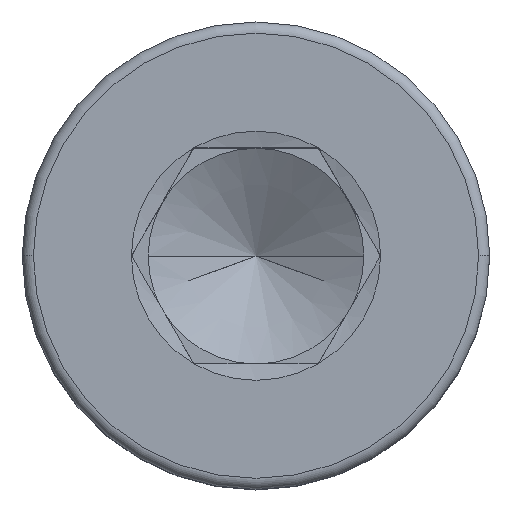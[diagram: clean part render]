
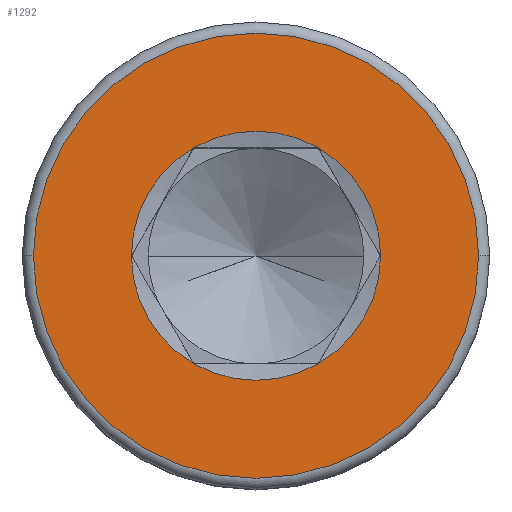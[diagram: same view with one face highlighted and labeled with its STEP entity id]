
A CAD part, top view. The second image highlights one B-rep face of the part: STEP entity #1292.
In plain terms, the highlighted planar face has unit normal (0, 0, 1).
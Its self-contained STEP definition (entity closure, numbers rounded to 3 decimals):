
#3 = DIRECTION ( 'NONE',  ( 0., 0., 1. ) ) ;
#7 = VERTEX_POINT ( 'NONE', #1404 ) ;
#39 = CARTESIAN_POINT ( 'NONE',  ( 0., 0., 8. ) ) ;
#58 = CIRCLE ( 'NONE', #808, 3.464 ) ;
#59 = VERTEX_POINT ( 'NONE', #68 ) ;
#68 = CARTESIAN_POINT ( 'NONE',  ( -6.19, 0., 8. ) ) ;
#82 = EDGE_CURVE ( 'NONE', #838, #1508, #1770, .T. ) ;
#103 = FACE_BOUND ( 'NONE', #1037, .T. ) ;
#121 = DIRECTION ( 'NONE',  ( 1., 0., 0. ) ) ;
#126 = EDGE_CURVE ( 'NONE', #1709, #838, #1119, .T. ) ;
#137 = CARTESIAN_POINT ( 'NONE',  ( -3.464, 0., 8. ) ) ;
#152 = CARTESIAN_POINT ( 'NONE',  ( -1.732, -3., 8. ) ) ;
#178 = ORIENTED_EDGE ( 'NONE', *, *, #82, .F. ) ;
#196 = CIRCLE ( 'NONE', #1217, 3.464 ) ;
#265 = CARTESIAN_POINT ( 'NONE',  ( 0., 0., 8. ) ) ;
#282 = DIRECTION ( 'NONE',  ( 0., 0., 1. ) ) ;
#311 = DIRECTION ( 'NONE',  ( 1., 0., 0. ) ) ;
#369 = CARTESIAN_POINT ( 'NONE',  ( -1.732, 3., 8. ) ) ;
#377 = DIRECTION ( 'NONE',  ( 0., 0., 1. ) ) ;
#379 = ORIENTED_EDGE ( 'NONE', *, *, #869, .F. ) ;
#397 = ORIENTED_EDGE ( 'NONE', *, *, #454, .T. ) ;
#402 = EDGE_CURVE ( 'NONE', #1508, #676, #196, .T. ) ;
#413 = AXIS2_PLACEMENT_3D ( 'NONE', #1083, #377, #1497 ) ;
#433 = DIRECTION ( 'NONE',  ( 0., 0., 1. ) ) ;
#443 = AXIS2_PLACEMENT_3D ( 'NONE', #1745, #1753, #1054 ) ;
#446 = CIRCLE ( 'NONE', #1480, 6.19 ) ;
#449 = DIRECTION ( 'NONE',  ( 0., 0., 1. ) ) ;
#452 = DIRECTION ( 'NONE',  ( 0., 0., 1. ) ) ;
#454 = EDGE_CURVE ( 'NONE', #59, #7, #446, .T. ) ;
#494 = ORIENTED_EDGE ( 'NONE', *, *, #1639, .F. ) ;
#608 = DIRECTION ( 'NONE',  ( 1., 0., 0. ) ) ;
#632 = DIRECTION ( 'NONE',  ( 0., 0., 1. ) ) ;
#648 = PLANE ( 'NONE',  #413 ) ;
#676 = VERTEX_POINT ( 'NONE', #369 ) ;
#699 = CARTESIAN_POINT ( 'NONE',  ( 0., 0., 8. ) ) ;
#713 = CARTESIAN_POINT ( 'NONE',  ( 0., 0., 8. ) ) ;
#719 = CARTESIAN_POINT ( 'NONE',  ( 1.732, 3., 8. ) ) ;
#780 = VERTEX_POINT ( 'NONE', #137 ) ;
#807 = CIRCLE ( 'NONE', #953, 3.464 ) ;
#808 = AXIS2_PLACEMENT_3D ( 'NONE', #39, #452, #1294 ) ;
#815 = CARTESIAN_POINT ( 'NONE',  ( 0., 0., 8. ) ) ;
#838 = VERTEX_POINT ( 'NONE', #1656 ) ;
#869 = EDGE_CURVE ( 'NONE', #780, #898, #940, .T. ) ;
#898 = VERTEX_POINT ( 'NONE', #152 ) ;
#940 = CIRCLE ( 'NONE', #1524, 3.464 ) ;
#953 = AXIS2_PLACEMENT_3D ( 'NONE', #713, #433, #311 ) ;
#983 = ORIENTED_EDGE ( 'NONE', *, *, #1748, .F. ) ;
#1018 = DIRECTION ( 'NONE',  ( 1., 0., 0. ) ) ;
#1037 = EDGE_LOOP ( 'NONE', ( #178, #1325, #494, #379, #983, #1672 ) ) ;
#1054 = DIRECTION ( 'NONE',  ( 1., 0., 0. ) ) ;
#1083 = CARTESIAN_POINT ( 'NONE',  ( 0., 0., 8. ) ) ;
#1104 = AXIS2_PLACEMENT_3D ( 'NONE', #815, #1372, #121 ) ;
#1119 = CIRCLE ( 'NONE', #443, 3.464 ) ;
#1157 = CIRCLE ( 'NONE', #1104, 6.19 ) ;
#1217 = AXIS2_PLACEMENT_3D ( 'NONE', #699, #282, #1559 ) ;
#1244 = AXIS2_PLACEMENT_3D ( 'NONE', #1298, #632, #608 ) ;
#1287 = CARTESIAN_POINT ( 'NONE',  ( 1.732, -3., 8. ) ) ;
#1292 = ADVANCED_FACE ( 'NONE', ( #1354, #103 ), #648, .T. ) ;
#1294 = DIRECTION ( 'NONE',  ( 1., 0., 0. ) ) ;
#1298 = CARTESIAN_POINT ( 'NONE',  ( 0., 0., 8. ) ) ;
#1325 = ORIENTED_EDGE ( 'NONE', *, *, #126, .F. ) ;
#1354 = FACE_OUTER_BOUND ( 'NONE', #1575, .T. ) ;
#1372 = DIRECTION ( 'NONE',  ( 0., 0., 1. ) ) ;
#1399 = DIRECTION ( 'NONE',  ( 1., 0., 0. ) ) ;
#1404 = CARTESIAN_POINT ( 'NONE',  ( 6.19, 0., 8. ) ) ;
#1447 = EDGE_CURVE ( 'NONE', #7, #59, #1157, .T. ) ;
#1465 = ORIENTED_EDGE ( 'NONE', *, *, #1447, .T. ) ;
#1480 = AXIS2_PLACEMENT_3D ( 'NONE', #1705, #449, #1018 ) ;
#1497 = DIRECTION ( 'NONE',  ( 1., 0., 0. ) ) ;
#1508 = VERTEX_POINT ( 'NONE', #719 ) ;
#1524 = AXIS2_PLACEMENT_3D ( 'NONE', #265, #3, #1399 ) ;
#1559 = DIRECTION ( 'NONE',  ( 1., 0., 0. ) ) ;
#1575 = EDGE_LOOP ( 'NONE', ( #1465, #397 ) ) ;
#1639 = EDGE_CURVE ( 'NONE', #898, #1709, #807, .T. ) ;
#1656 = CARTESIAN_POINT ( 'NONE',  ( 3.464, 0., 8. ) ) ;
#1672 = ORIENTED_EDGE ( 'NONE', *, *, #402, .F. ) ;
#1705 = CARTESIAN_POINT ( 'NONE',  ( 0., 0., 8. ) ) ;
#1709 = VERTEX_POINT ( 'NONE', #1287 ) ;
#1745 = CARTESIAN_POINT ( 'NONE',  ( 0., 0., 8. ) ) ;
#1748 = EDGE_CURVE ( 'NONE', #676, #780, #58, .T. ) ;
#1753 = DIRECTION ( 'NONE',  ( 0., 0., 1. ) ) ;
#1770 = CIRCLE ( 'NONE', #1244, 3.464 ) ;
